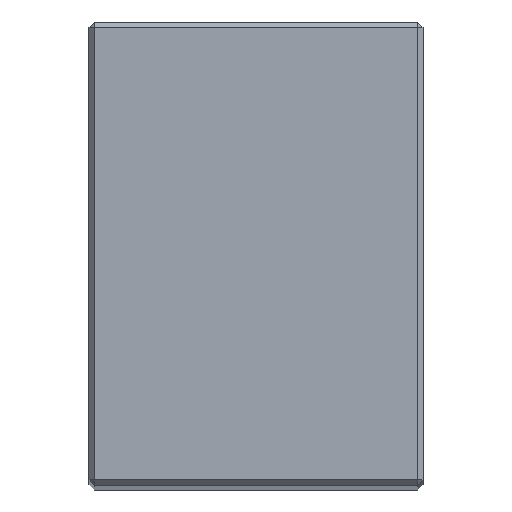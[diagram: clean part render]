
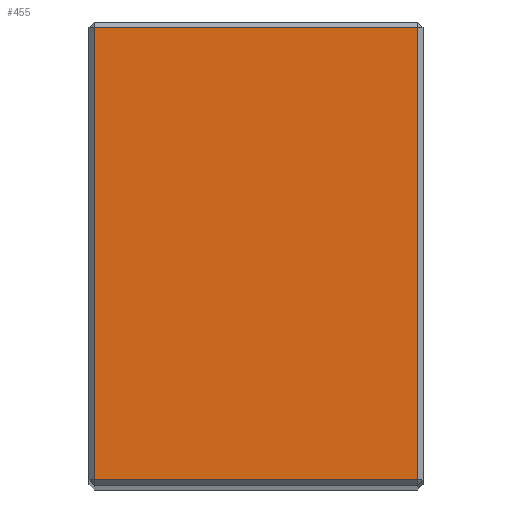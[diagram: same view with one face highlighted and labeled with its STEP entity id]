
A CAD part, top view. The second image highlights one B-rep face of the part: STEP entity #455.
In plain terms, the highlighted planar face has unit normal (0, 0, 1).
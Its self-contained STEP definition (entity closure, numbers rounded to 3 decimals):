
#31 = VECTOR ( 'NONE', #609, 1000. ) ;
#39 = LINE ( 'NONE', #601, #31 ) ;
#53 = EDGE_CURVE ( 'NONE', #443, #438, #270, .T. ) ;
#76 = FACE_OUTER_BOUND ( 'NONE', #303, .T. ) ;
#79 = CARTESIAN_POINT ( 'NONE',  ( 30., 1., 248. ) ) ;
#101 = AXIS2_PLACEMENT_3D ( 'NONE', #185, #172, #152 ) ;
#152 = DIRECTION ( 'NONE',  ( -1., 0., 0. ) ) ;
#168 = VECTOR ( 'NONE', #496, 1000. ) ;
#170 = LINE ( 'NONE', #447, #168 ) ;
#172 = DIRECTION ( 'NONE',  ( 0., 0., -1. ) ) ;
#174 = PLANE ( 'NONE',  #101 ) ;
#175 = LINE ( 'NONE', #479, #183 ) ;
#183 = VECTOR ( 'NONE', #482, 1000. ) ;
#185 = CARTESIAN_POINT ( 'NONE',  ( 31., 86., 248. ) ) ;
#217 = CARTESIAN_POINT ( 'NONE',  ( 30., 85., 248. ) ) ;
#223 = CARTESIAN_POINT ( 'NONE',  ( -31., 85., 248. ) ) ;
#245 = CARTESIAN_POINT ( 'NONE',  ( -30., 85., 248. ) ) ;
#258 = VECTOR ( 'NONE', #261, 1000. ) ;
#261 = DIRECTION ( 'NONE',  ( -1., 0., 0. ) ) ;
#270 = LINE ( 'NONE', #223, #258 ) ;
#291 = EDGE_CURVE ( 'NONE', #643, #443, #175, .T. ) ;
#303 = EDGE_LOOP ( 'NONE', ( #527, #528, #537, #557 ) ) ;
#307 = CARTESIAN_POINT ( 'NONE',  ( -30., 1., 248. ) ) ;
#333 = EDGE_CURVE ( 'NONE', #438, #391, #170, .T. ) ;
#391 = VERTEX_POINT ( 'NONE', #307 ) ;
#438 = VERTEX_POINT ( 'NONE', #245 ) ;
#443 = VERTEX_POINT ( 'NONE', #217 ) ;
#447 = CARTESIAN_POINT ( 'NONE',  ( -30., 86., 248. ) ) ;
#455 = ADVANCED_FACE ( 'NONE', ( #76 ), #174, .F. ) ;
#479 = CARTESIAN_POINT ( 'NONE',  ( 30., 86., 248. ) ) ;
#482 = DIRECTION ( 'NONE',  ( 0., 1., 0. ) ) ;
#496 = DIRECTION ( 'NONE',  ( 0., -1., 0. ) ) ;
#527 = ORIENTED_EDGE ( 'NONE', *, *, #53, .T. ) ;
#528 = ORIENTED_EDGE ( 'NONE', *, *, #333, .T. ) ;
#537 = ORIENTED_EDGE ( 'NONE', *, *, #544, .T. ) ;
#544 = EDGE_CURVE ( 'NONE', #391, #643, #39, .T. ) ;
#557 = ORIENTED_EDGE ( 'NONE', *, *, #291, .T. ) ;
#601 = CARTESIAN_POINT ( 'NONE',  ( 31., 1., 248. ) ) ;
#609 = DIRECTION ( 'NONE',  ( 1., 0., 0. ) ) ;
#643 = VERTEX_POINT ( 'NONE', #79 ) ;
